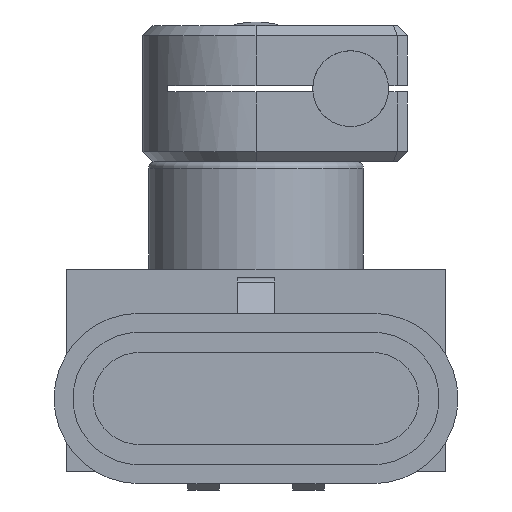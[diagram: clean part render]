
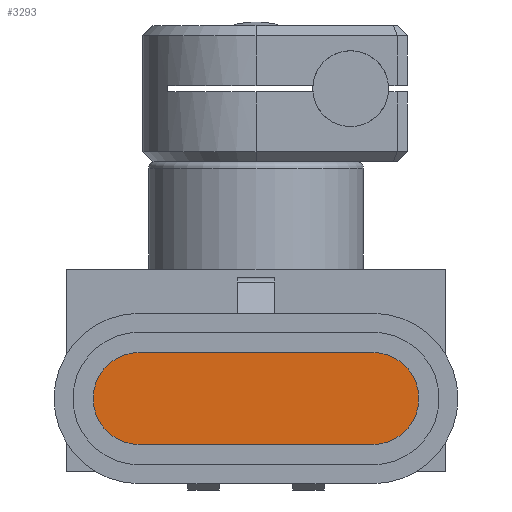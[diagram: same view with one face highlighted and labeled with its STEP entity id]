
A CAD part, front view. The second image highlights one B-rep face of the part: STEP entity #3293.
In plain terms, the highlighted planar face has unit normal (0, -1, 0) as drawn and (0, 0, -1) by its records, which use the part's own axes.
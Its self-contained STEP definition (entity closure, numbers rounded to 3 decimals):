
#138=LINE('',#5033,#476);
#142=LINE('',#5045,#480);
#476=VECTOR('',#4067,18.5);
#480=VECTOR('',#4079,18.5);
#741=PLANE('',#3540);
#918=FACE_OUTER_BOUND('',#1117,.T.);
#1117=EDGE_LOOP('',(#2445,#2446,#2447,#2448));
#1305=CIRCLE('',#3535,3.65);
#1307=CIRCLE('',#3539,3.65);
#1492=VERTEX_POINT('',#5030);
#1493=VERTEX_POINT('',#5032);
#1495=VERTEX_POINT('',#5038);
#1497=VERTEX_POINT('',#5044);
#1843=EDGE_CURVE('',#1493,#1492,#138,.T.);
#1846=EDGE_CURVE('',#1495,#1493,#1305,.T.);
#1849=EDGE_CURVE('',#1497,#1495,#142,.T.);
#1852=EDGE_CURVE('',#1492,#1497,#1307,.T.);
#2445=ORIENTED_EDGE('',*,*,#1846,.T.);
#2446=ORIENTED_EDGE('',*,*,#1843,.T.);
#2447=ORIENTED_EDGE('',*,*,#1852,.T.);
#2448=ORIENTED_EDGE('',*,*,#1849,.T.);
#3293=ADVANCED_FACE('',(#918),#741,.F.);
#3535=AXIS2_PLACEMENT_3D('',#5039,#4073,#4074);
#3539=AXIS2_PLACEMENT_3D('',#5049,#4085,#4086);
#3540=AXIS2_PLACEMENT_3D('',#5050,#4087,#4088);
#4067=DIRECTION('',(1.,0.,0.));
#4073=DIRECTION('center_axis',(0.,0.,-1.));
#4074=DIRECTION('ref_axis',(1.,0.,0.));
#4079=DIRECTION('',(-1.,0.,0.));
#4085=DIRECTION('center_axis',(0.,0.,-1.));
#4086=DIRECTION('ref_axis',(1.,0.,0.));
#4087=DIRECTION('center_axis',(0.,0.,1.));
#4088=DIRECTION('ref_axis',(1.,0.,0.));
#5030=CARTESIAN_POINT('',(9.25,-2.1,-60.5));
#5032=CARTESIAN_POINT('',(-9.25,-2.1,-60.5));
#5033=CARTESIAN_POINT('',(-9.25,-2.1,-60.5));
#5038=CARTESIAN_POINT('',(-9.25,-9.4,-60.5));
#5039=CARTESIAN_POINT('Origin',(-9.25,-5.75,-60.5));
#5044=CARTESIAN_POINT('',(9.25,-9.4,-60.5));
#5045=CARTESIAN_POINT('',(9.25,-9.4,-60.5));
#5049=CARTESIAN_POINT('Origin',(9.25,-5.75,-60.5));
#5050=CARTESIAN_POINT('Origin',(-9.25,-5.75,-60.5));
